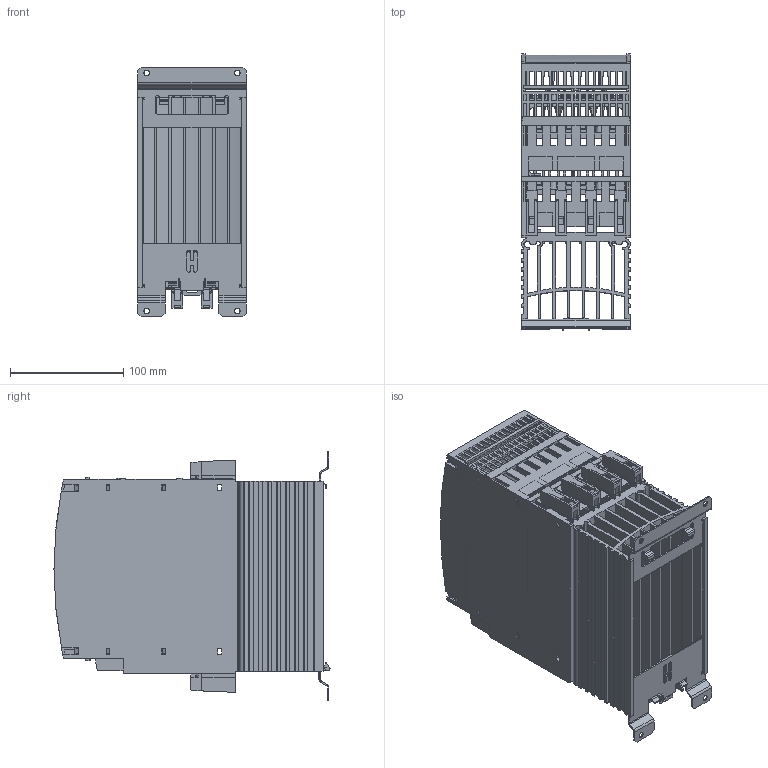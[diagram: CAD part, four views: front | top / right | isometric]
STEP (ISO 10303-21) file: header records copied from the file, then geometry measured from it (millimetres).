
FILE_DESCRIPTION((''),'2;1');
FILE_NAME('ASM0001_ASM','2016-07-18T',('SESA317746'),(''),'PRO/ENGINEER BY PARAMETRIC TECHNOLOGY CORPORATION, 2014320','PRO/ENGINEER BY PARAMETRIC TECHNOLOGY CORPORATION, 2014320','');
FILE_SCHEMA(('CONFIG_CONTROL_DESIGN'));
Length unit declared in the file: millimetre
Products named in the file (1): ASM0001_ASM
Bounding box: 97 x 243.59 x 220 mm (x, y, z)
Volume: 650552.9 mm3; surface area: 544655.7 mm2
Topology: 3 solids, 11 shells, 4520 faces, 14362 edges, 9330 vertices
Faces by surface type: plane 3938, cylinder 525, bspline 33, cone 24
Entity records: 159371 total; most frequent: CARTESIAN_POINT 31108, ORIENTED_EDGE 28682, DIRECTION 24562, EDGE_CURVE 14357, VECTOR 12294, LINE 12294, VERTEX_POINT 9328, AXIS2_PLACEMENT_3D 6134
